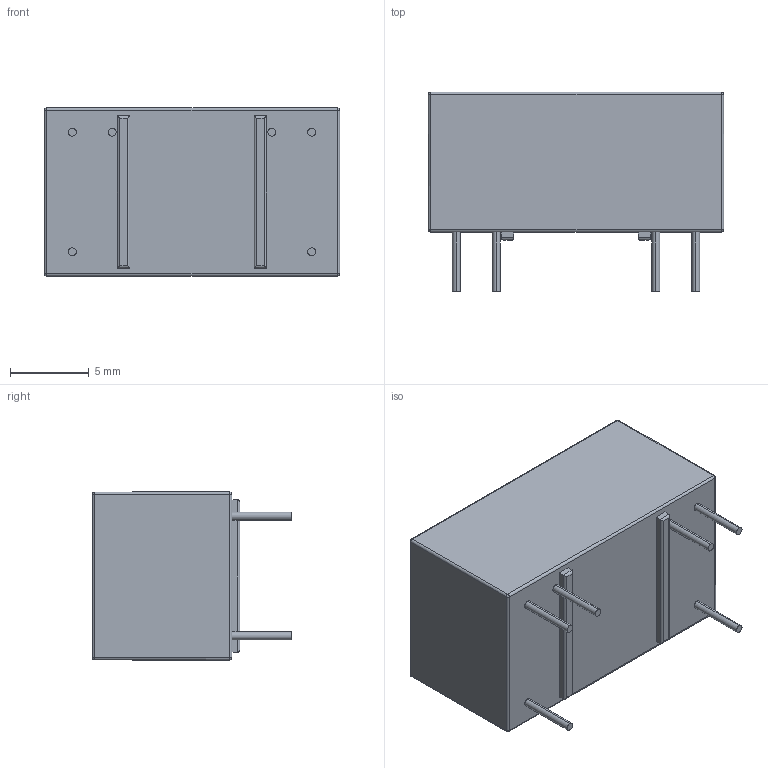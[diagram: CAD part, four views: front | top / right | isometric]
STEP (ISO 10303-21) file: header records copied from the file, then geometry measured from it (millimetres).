
FILE_DESCRIPTION (( 'STEP AP214' ), '1' );
FILE_NAME ('97-1-C-X-XX.STEP', '2010-12-01T13:36:07', ( 'admin' ), ( '' ), 'SwSTEP 2.0', 'SolidWorks 2009', '' );
FILE_SCHEMA (( 'AUTOMOTIVE_DESIGN' ));
Length unit declared in the file: millimetre
Products named in the file (1): 97-1-C-X-XX
Bounding box: 18.8 x 12.7 x 10.7 mm (x, y, z)
Volume: 1798.7 mm3; surface area: 971.5 mm2
Topology: 1 solids, 1 shells, 663 faces, 1739 edges, 1142 vertices
Faces by surface type: plane 392, bspline 225, cylinder 36, sphere 10
Entity records: 46550 total; most frequent: CARTESIAN_POINT 24444, ORIENTED_EDGE 3462, DIRECTION 2209, EDGE_CURVE 1731, LINE 1215, VECTOR 1215, VERTEX_POINT 1142, EDGE_LOOP 735
